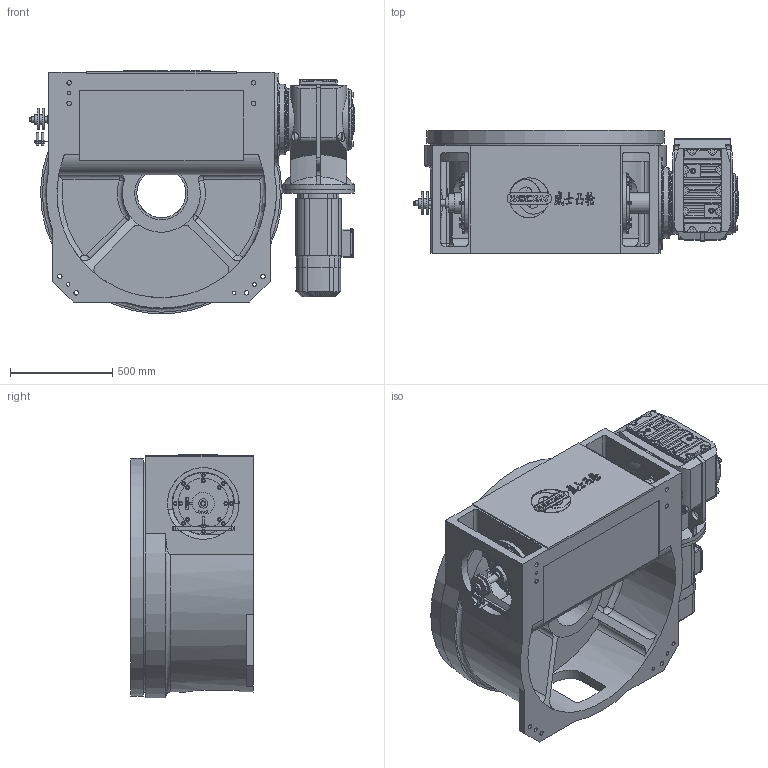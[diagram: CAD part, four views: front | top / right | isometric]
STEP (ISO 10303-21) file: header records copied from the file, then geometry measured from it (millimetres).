
FILE_DESCRIPTION(/* description */ (''),/* implementation_level */ '2;1');
FILE_NAME(/* name */ 'TC1160机械分度转台（双感应）107 (2).stp',/* time_stamp */ '2024-08-10T14:44:17+08:00',/* author */ (''),/* organization */ (''),/* preprocessor_version */ 'ST-DEVELOPER v16',/* originating_system */ 'SIEMENS PLM Software NX 10.0',/* authorisation */ '');
FILE_SCHEMA (('CONFIG_CONTROL_DESIGN'));
Length unit declared in the file: millimetre
Products named in the file (1): TC1160机械分度转台（双感应）1
07 (2)
Bounding box: 1589 x 600 x 1187.75 mm (x, y, z)
Volume: 477590908.6 mm3; surface area: 14072442.5 mm2
Topology: 45 solids, 85 shells, 2809 faces, 6906 edges, 4566 vertices
Faces by surface type: plane 1627, cylinder 704, extrusion 185, cone 136, torus 89, bspline 61, sphere 7
Full cylindrical faces by diameter (mm): 5 x1, 6 x1, 8.5 x8, 11 x8, 12 x8, 14 x20, 16 x18, 17 x30, 17.5 x16, 18 x40, 20 x18, 22 x8, 24 x36, 24.33 x4, 25 x3, 26 x30, 27 x8, 28 x6, 35 x2, 37 x8, 45 x2, 50 x2, 53 x2, 68 x1, 90 x2, 100 x3, 110 x1, 118 x5, 120 x1, 121 x1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
Entity records: 85126 total; most frequent: CARTESIAN_POINT 21972, ORIENTED_EDGE 12418, DIRECTION 12254, EDGE_CURVE 6209, VERTEX_POINT 4415, AXIS2_PLACEMENT_3D 4093, VECTOR 4068, LINE 3883
